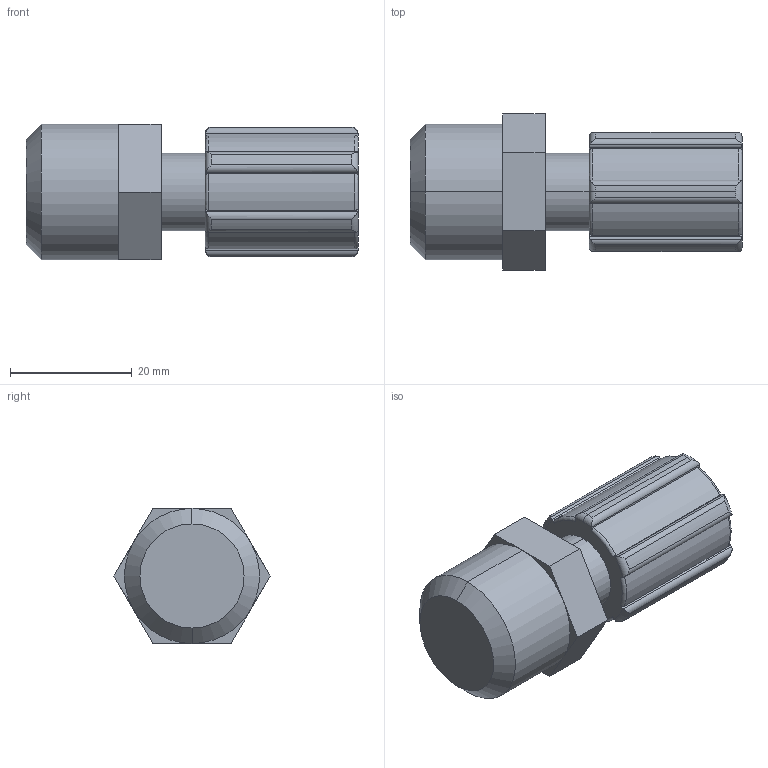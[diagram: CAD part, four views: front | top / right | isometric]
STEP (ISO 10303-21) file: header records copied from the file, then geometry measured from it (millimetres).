
FILE_DESCRIPTION (( 'STEP AP214' ), '1' );
FILE_NAME ('Fitting Flaretek Compatible 04.STEP', '2012-09-26T15:56:47', ( '' ), ( '' ), 'SwSTEP 2.0', 'SolidWorks 2012', '' );
FILE_SCHEMA (( 'AUTOMOTIVE_DESIGN' ));
Length unit declared in the file: inch
Products named in the file (1): Fitting Flaretek Compatible  04
Bounding box: 54.61 x 25.66 x 22.23 mm (x, y, z)
Volume: 17255.2 mm3; surface area: 4797.6 mm2
Topology: 1 solids, 1 shells, 90 faces, 244 edges, 159 vertices
Faces by surface type: cylinder 33, plane 29, torus 26, cone 2
Entity records: 3170 total; most frequent: CARTESIAN_POINT 904, ORIENTED_EDGE 488, DIRECTION 423, EDGE_CURVE 244, AXIS2_PLACEMENT_3D 164, VERTEX_POINT 159, LINE 95, VECTOR 95
